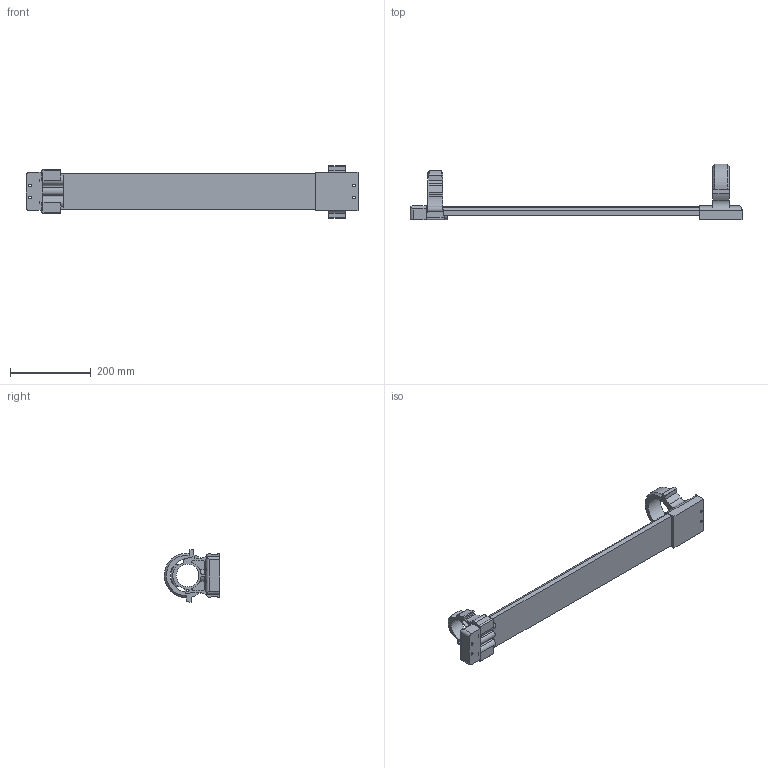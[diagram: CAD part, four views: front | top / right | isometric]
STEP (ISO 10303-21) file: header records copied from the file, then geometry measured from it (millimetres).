
FILE_DESCRIPTION( ( 'STEP AP214' ), '1' );
FILE_NAME( 'e:/temp/worker_15/temp/exporttempdir_6232_661_QCUqB/format_0/ROBOWAY.stp', '2021-05-03T15:40:30', ( 'License CC BY-ND 4.0' ), ( 'CADENAS' ), ' ', 'PARTsolutions', ' ' );
FILE_SCHEMA( ( 'AUTOMOTIVE_DESIGN { 1 0 10303 214 1 1 1 1 }' ) );
Length unit declared in the file: millimetre
Products named in the file (5): 177632767 RW-48 600L; _RWM-48; _RWR-48; _ST-RAIL 48-600; _RWF-48
Assembly tree (4 placements, depth 2):
  177632767 RW-48 600L
    _RWM-48
    _RWR-48
    _ST-RAIL 48-600
    _RWF-48
Bounding box: 822 x 137.49 x 129.11 mm (x, y, z)
Volume: 2177790.4 mm3; surface area: 291740.6 mm2
Topology: 4 solids, 4 shells, 193 faces, 548 edges, 365 vertices
Faces by surface type: plane 96, cylinder 93, cone 4
Full cylindrical faces by diameter (mm): 7 x5, 11 x4, 13 x1, 19 x2, 24 x1, 56 x1, 80 x1
Entity records: 8295 total; most frequent: CARTESIAN_POINT 1542, DIRECTION 1095, ORIENTED_EDGE 1054, EDGE_CURVE 527, AXIS2_PLACEMENT_3D 395, VERTEX_POINT 360, LINE 305, VECTOR 305
